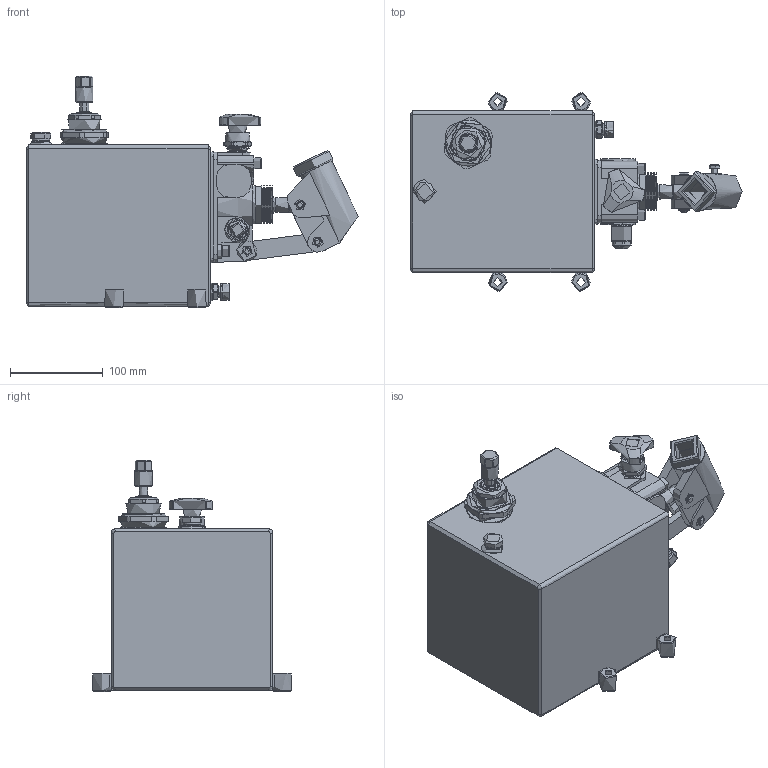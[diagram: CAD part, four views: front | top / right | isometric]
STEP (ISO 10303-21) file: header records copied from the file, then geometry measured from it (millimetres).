
FILE_DESCRIPTION(/* description */ ('Unknown'),/* implementation_level */ '2;1');
FILE_NAME(/* name */ 'ZES---SE--SR05',/* time_stamp */ '2024-11-29T15:55:09+01:00',/* author */ ('Unknown'),/* organization */ ('Unknown'),/* preprocessor_version */ 'ST-DEVELOPER v19.4',/* originating_system */ 'Solid Edge',/* authorisation */ 'Unknown');
FILE_SCHEMA (('AUTOMOTIVE_DESIGN {1 0 10303 214 3 1 1}'));
Products named in the file (1): ZES---SE--SR05
Bounding box: 358.87 x 214.78 x 249.75 mm (x, y, z)
Volume: 1422302.4 mm3; surface area: 578042 mm2
Topology: 8 solids, 8 shells, 3490 faces, 9330 edges, 5967 vertices
Faces by surface type: plane 2394, cylinder 625, cone 220, torus 141, bspline 94, sphere 16
Full cylindrical faces by diameter (mm): 1.998 x1, 3.596 x2, 3.996 x6, 4.995 x5, 5.095 x5, 5.794 x1, 5.994 x9, 6.494 x2, 6.993 x1, 7.792 x6, 7.942 x1, 7.992 x4, 8.092 x6, 8.368 x3, 8.492 x1, 8.557 x7, 8.991 x6, 9.64 x1, 9.99 x13, 10.04 x2, 10.19 x1, 10.489 x2, 10.869 x4, 10.889 x4, 10.989 x3, 11.434 x1, 11.489 x1, 11.788 x2, 11.988 x3, 12.088 x1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
Entity records: 134184 total; most frequent: CARTESIAN_POINT 25948, ORIENTED_EDGE 17274, DIRECTION 17024, EDGE_CURVE 8637, LINE 6012, VECTOR 6012, VERTEX_POINT 5718, AXIS2_PLACEMENT_3D 5506
